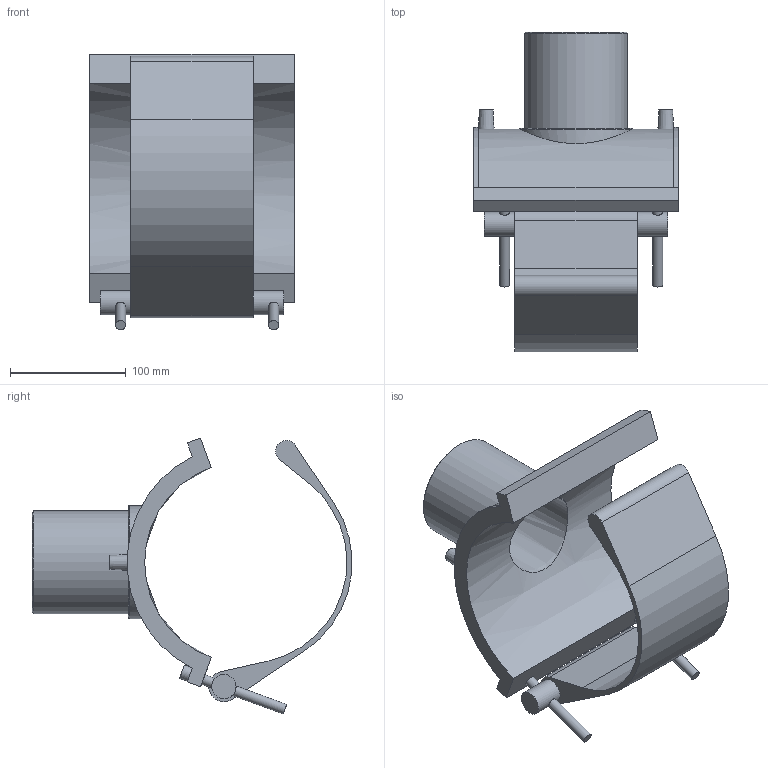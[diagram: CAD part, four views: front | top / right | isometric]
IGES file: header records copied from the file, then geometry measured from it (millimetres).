
Global section: file name: 5958DB03060030.ipt; native system: Autodesk Inventor 2019; preprocessor: unknown; author: KIM; date: 20210830.101322; units: inch
Bounding box: 176.02 x 275.69 x 238.01 mm (x, y, z)
Volume: 1062847.1 mm3; surface area: 223817.1 mm2
Topology: 1 solids, 1 shells, 58 faces, 128 edges, 88 vertices
Faces by surface type: plane 30, cylinder 19, revolution 6, cone 3
Full cylindrical faces by diameter (mm): 4 x2, 8.725 x4, 12.215 x2, 20.94 x2, 88.7 x1
